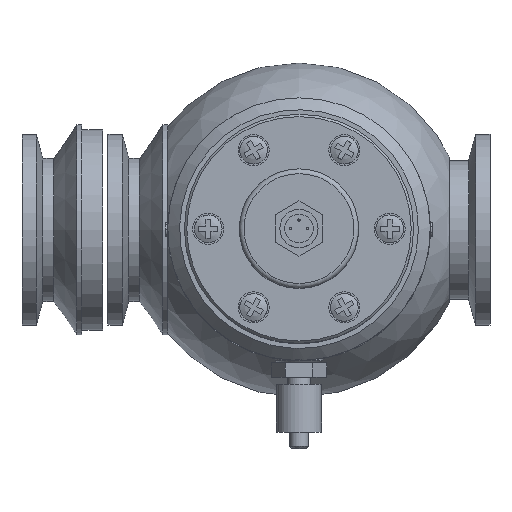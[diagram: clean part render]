
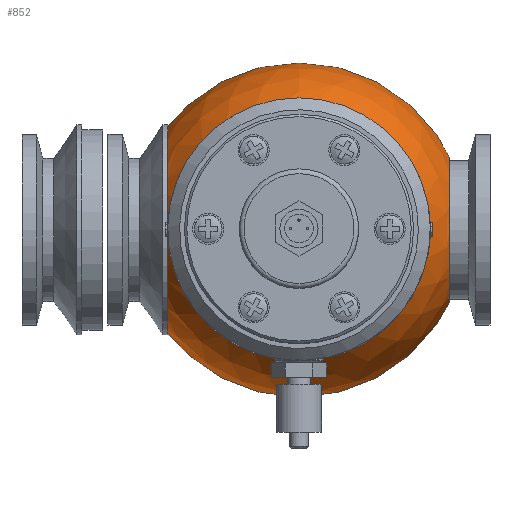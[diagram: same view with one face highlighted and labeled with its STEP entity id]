
A CAD part, top view. The second image highlights one B-rep face of the part: STEP entity #852.
In plain terms, the highlighted spherical face has radius 35 mm.
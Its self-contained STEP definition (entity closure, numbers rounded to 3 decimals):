
#852 = ADVANCED_FACE( '', ( #1315, #1316, #1317 ), #1318, .T. );
#1315 = FACE_BOUND( '', #1804, .T. );
#1316 = FACE_BOUND( '', #1805, .T. );
#1317 = FACE_OUTER_BOUND( '', #1806, .T. );
#1318 = SPHERICAL_SURFACE( '', #1807, 35. );
#1804 = EDGE_LOOP( '', ( #2359 ) );
#1805 = EDGE_LOOP( '', ( #2360 ) );
#1806 = EDGE_LOOP( '', ( #2361 ) );
#1807 = AXIS2_PLACEMENT_3D( '', #2362, #2363, #2364 );
#2359 = ORIENTED_EDGE( '', *, *, #3290, .F. );
#2360 = ORIENTED_EDGE( '', *, *, #3291, .F. );
#2361 = ORIENTED_EDGE( '', *, *, #3293, .F. );
#2362 = CARTESIAN_POINT( '', ( 0., 0., 0. ) );
#2363 = DIRECTION( '', ( 0., 0., -1. ) );
#2364 = DIRECTION( '', ( 0., 1., 0. ) );
#3290 = EDGE_CURVE( '', #3634, #3634, #3635, .F. );
#3291 = EDGE_CURVE( '', #3636, #3636, #3637, .F. );
#3293 = EDGE_CURVE( '', #3640, #3640, #3641, .F. );
#3634 = VERTEX_POINT( '', #3963 );
#3635 = CIRCLE( '', #3964, 15.256 );
#3636 = VERTEX_POINT( '', #3965 );
#3637 = CIRCLE( '', #3966, 21.651 );
#3640 = VERTEX_POINT( '', #3969 );
#3641 = CIRCLE( '', #3970, 21. );
#3963 = CARTESIAN_POINT( '', ( 31.5, 0., 15.256 ) );
#3964 = AXIS2_PLACEMENT_3D( '', #4833, #4834, #4835 );
#3965 = CARTESIAN_POINT( '', ( -27.5, 0., -21.651 ) );
#3966 = AXIS2_PLACEMENT_3D( '', #4836, #4837, #4838 );
#3969 = CARTESIAN_POINT( '', ( -21., 0., 28. ) );
#3970 = AXIS2_PLACEMENT_3D( '', #4842, #4843, #4844 );
#4833 = CARTESIAN_POINT( '', ( 31.5, 0., 0. ) );
#4834 = DIRECTION( '', ( -1., 0., 0. ) );
#4835 = DIRECTION( '', ( 0., 0., 1. ) );
#4836 = CARTESIAN_POINT( '', ( -27.5, 0., 0. ) );
#4837 = DIRECTION( '', ( 1., 0., 0. ) );
#4838 = DIRECTION( '', ( 0., 0., -1. ) );
#4842 = CARTESIAN_POINT( '', ( 0., 0., 28. ) );
#4843 = DIRECTION( '', ( 0., 0., -1. ) );
#4844 = DIRECTION( '', ( -1., 0., 0. ) );
